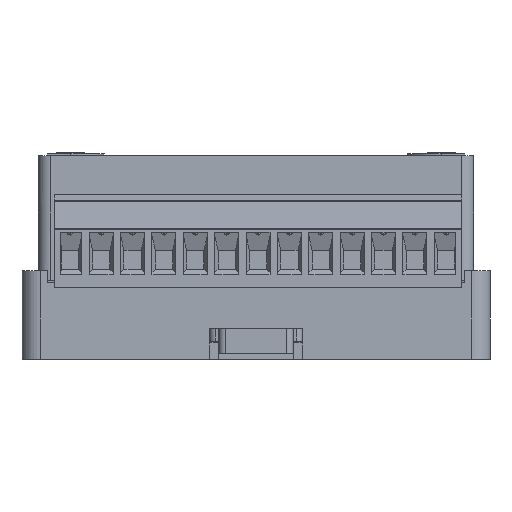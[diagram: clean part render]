
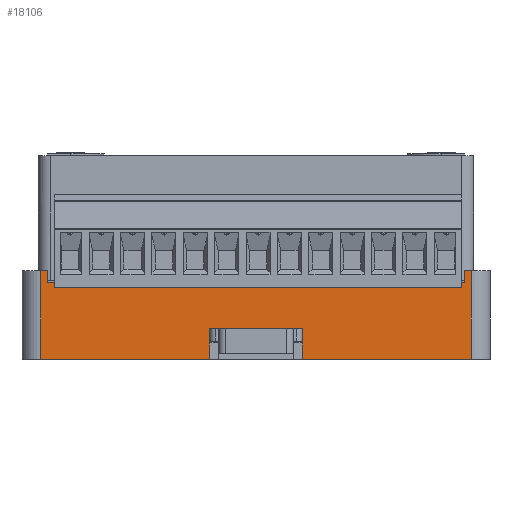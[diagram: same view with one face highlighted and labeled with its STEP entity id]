
A CAD part, front view. The second image highlights one B-rep face of the part: STEP entity #18106.
In plain terms, the highlighted planar face has unit normal (0, -1, 0).
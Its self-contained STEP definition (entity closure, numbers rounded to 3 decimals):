
#18106=ADVANCED_FACE('',(#81670),#81672,.F.);
#81670=FACE_BOUND('',#81671,.T.);
#81671=EDGE_LOOP('',(#129198,#129199,#129200,#129201,#129202,#129203,#129204,#129205,
#129206,#129207,#129208,#129209,#129210,#129211,#129212,#129213));
#81672=PLANE('',#81673);
#81673=AXIS2_PLACEMENT_3D('',#81674,#81675,#81676);
#81674=CARTESIAN_POINT('',(-37.9,-51.95,14.4));
#81675=DIRECTION('',(0.,1.,0.));
#81676=DIRECTION('',(0.,0.,1.));
#129198=ORIENTED_EDGE('',*,*,#176288,.F.);
#129199=ORIENTED_EDGE('',*,*,#176289,.F.);
#129200=ORIENTED_EDGE('',*,*,#176290,.T.);
#129201=ORIENTED_EDGE('',*,*,#176291,.T.);
#129202=ORIENTED_EDGE('',*,*,#176292,.T.);
#129203=ORIENTED_EDGE('',*,*,#176102,.F.);
#129204=ORIENTED_EDGE('',*,*,#176134,.T.);
#129205=ORIENTED_EDGE('',*,*,#176132,.F.);
#129206=ORIENTED_EDGE('',*,*,#176131,.T.);
#129207=ORIENTED_EDGE('',*,*,#176118,.F.);
#129208=ORIENTED_EDGE('',*,*,#176293,.T.);
#129209=ORIENTED_EDGE('',*,*,#176294,.T.);
#129210=ORIENTED_EDGE('',*,*,#176295,.F.);
#129211=ORIENTED_EDGE('',*,*,#176296,.F.);
#129212=ORIENTED_EDGE('',*,*,#176297,.F.);
#129213=ORIENTED_EDGE('',*,*,#176138,.F.);
#176102=EDGE_CURVE('',#200297,#200299,#200300,.T.);
#176118=EDGE_CURVE('',#200326,#200318,#200328,.T.);
#176131=EDGE_CURVE('',#200346,#200318,#200348,.T.);
#176132=EDGE_CURVE('',#200346,#200349,#200350,.T.);
#176134=EDGE_CURVE('',#200297,#200349,#200352,.T.);
#176138=EDGE_CURVE('',#200356,#200358,#200359,.T.);
#176288=EDGE_CURVE('',#200593,#200356,#200594,.T.);
#176289=EDGE_CURVE('',#200595,#200593,#200596,.T.);
#176290=EDGE_CURVE('',#200595,#200597,#200598,.T.);
#176291=EDGE_CURVE('',#200597,#200599,#200600,.T.);
#176292=EDGE_CURVE('',#200599,#200299,#200601,.T.);
#176293=EDGE_CURVE('',#200326,#200602,#200603,.T.);
#176294=EDGE_CURVE('',#200602,#200604,#200605,.T.);
#176295=EDGE_CURVE('',#200606,#200604,#200607,.T.);
#176296=EDGE_CURVE('',#200608,#200606,#200609,.T.);
#176297=EDGE_CURVE('',#200358,#200608,#200610,.T.);
#200297=VERTEX_POINT('',#256864);
#200299=VERTEX_POINT('',#256868);
#200300=LINE('',#256869,#256870);
#200318=VERTEX_POINT('',#256911);
#200326=VERTEX_POINT('',#256928);
#200328=LINE('',#256933,#256934);
#200346=VERTEX_POINT('',#256975);
#200348=LINE('',#256979,#256980);
#200349=VERTEX_POINT('',#256982);
#200350=LINE('',#256983,#256984);
#200352=LINE('',#256989,#256990);
#200356=VERTEX_POINT('',#256999);
#200358=VERTEX_POINT('',#257003);
#200359=LINE('',#257004,#257005);
#200593=VERTEX_POINT('',#257559);
#200594=LINE('',#257560,#257561);
#200595=VERTEX_POINT('',#257563);
#200596=LINE('',#257564,#257565);
#200597=VERTEX_POINT('',#257567);
#200598=LINE('',#257568,#257569);
#200599=VERTEX_POINT('',#257571);
#200600=LINE('',#257572,#257573);
#200601=LINE('',#257575,#257576);
#200602=VERTEX_POINT('',#257578);
#200603=LINE('',#257579,#257580);
#200604=VERTEX_POINT('',#257582);
#200605=LINE('',#257583,#257584);
#200606=VERTEX_POINT('',#257586);
#200607=LINE('',#257587,#257588);
#200608=VERTEX_POINT('',#257590);
#200609=LINE('',#257591,#257592);
#200610=LINE('',#257594,#257595);
#256864=CARTESIAN_POINT('',(33.85,-51.95,14.4));
#256868=CARTESIAN_POINT('',(34.9,-51.95,14.4));
#256869=CARTESIAN_POINT('',(33.85,-51.95,14.4));
#256870=VECTOR('',#256871,1.);
#256871=DIRECTION('',(1.,0.,0.));
#256911=CARTESIAN_POINT('',(-33.85,-51.95,14.4));
#256928=CARTESIAN_POINT('',(-34.9,-51.95,14.4));
#256933=CARTESIAN_POINT('',(-34.9,-51.95,14.4));
#256934=VECTOR('',#256935,1.);
#256935=DIRECTION('',(1.,0.,0.));
#256975=CARTESIAN_POINT('',(-33.85,-51.95,12.4));
#256979=CARTESIAN_POINT('',(-33.85,-51.95,12.4));
#256980=VECTOR('',#256981,1.);
#256981=DIRECTION('',(0.,0.,1.));
#256982=CARTESIAN_POINT('',(33.85,-51.95,12.4));
#256983=CARTESIAN_POINT('',(-33.85,-51.95,12.4));
#256984=VECTOR('',#256985,1.);
#256985=DIRECTION('',(1.,0.,0.));
#256989=CARTESIAN_POINT('',(33.85,-51.95,14.4));
#256990=VECTOR('',#256991,1.);
#256991=DIRECTION('',(0.,0.,-1.));
#256999=CARTESIAN_POINT('',(4.,-51.95,5.));
#257003=CARTESIAN_POINT('',(-4.,-51.95,5.));
#257004=CARTESIAN_POINT('',(4.,-51.95,5.));
#257005=VECTOR('',#257006,1.);
#257006=DIRECTION('',(-1.,0.,0.));
#257559=CARTESIAN_POINT('',(6.936,-51.95,5.));
#257560=CARTESIAN_POINT('',(6.936,-51.95,5.));
#257561=VECTOR('',#257562,1.);
#257562=DIRECTION('',(-1.,0.,0.));
#257563=CARTESIAN_POINT('',(7.5,-51.95,5.));
#257564=CARTESIAN_POINT('',(7.5,-51.95,5.));
#257565=VECTOR('',#257566,1.);
#257566=DIRECTION('',(-1.,0.,0.));
#257567=CARTESIAN_POINT('',(7.5,-51.95,0.));
#257568=CARTESIAN_POINT('',(7.5,-51.95,5.));
#257569=VECTOR('',#257570,1.);
#257570=DIRECTION('',(0.,0.,-1.));
#257571=CARTESIAN_POINT('',(34.9,-51.95,0.));
#257572=CARTESIAN_POINT('',(7.5,-51.95,0.));
#257573=VECTOR('',#257574,1.);
#257574=DIRECTION('',(1.,0.,0.));
#257575=CARTESIAN_POINT('',(34.9,-51.95,0.));
#257576=VECTOR('',#257577,1.);
#257577=DIRECTION('',(0.,0.,1.));
#257578=CARTESIAN_POINT('',(-34.9,-51.95,0.));
#257579=CARTESIAN_POINT('',(-34.9,-51.95,14.4));
#257580=VECTOR('',#257581,1.);
#257581=DIRECTION('',(0.,0.,-1.));
#257582=CARTESIAN_POINT('',(-7.5,-51.95,0.));
#257583=CARTESIAN_POINT('',(-34.9,-51.95,0.));
#257584=VECTOR('',#257585,1.);
#257585=DIRECTION('',(1.,0.,0.));
#257586=CARTESIAN_POINT('',(-7.5,-51.95,5.));
#257587=CARTESIAN_POINT('',(-7.5,-51.95,5.));
#257588=VECTOR('',#257589,1.);
#257589=DIRECTION('',(0.,0.,-1.));
#257590=CARTESIAN_POINT('',(-6.936,-51.95,5.));
#257591=CARTESIAN_POINT('',(-6.936,-51.95,5.));
#257592=VECTOR('',#257593,1.);
#257593=DIRECTION('',(-1.,0.,0.));
#257594=CARTESIAN_POINT('',(-4.,-51.95,5.));
#257595=VECTOR('',#257596,1.);
#257596=DIRECTION('',(-1.,0.,0.));
